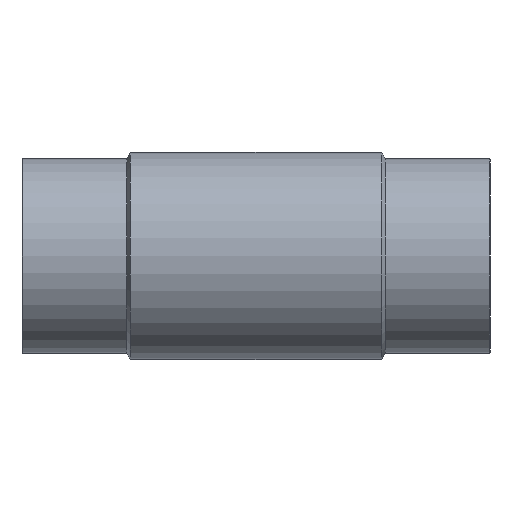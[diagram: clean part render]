
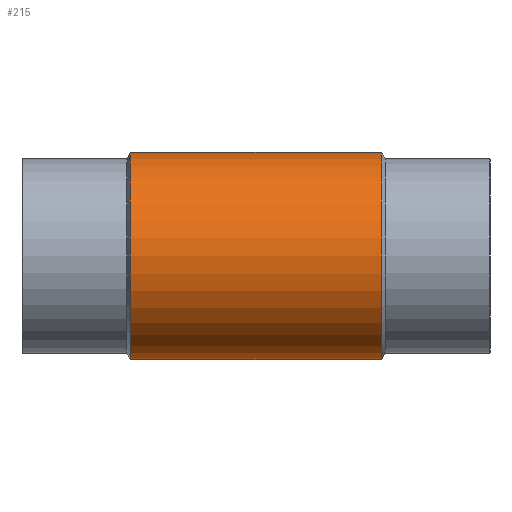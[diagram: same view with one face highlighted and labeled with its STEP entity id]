
A CAD part, front view. The second image highlights one B-rep face of the part: STEP entity #215.
In plain terms, the highlighted cylindrical face has radius 119.5 mm (diameter 239 mm), a full revolution.
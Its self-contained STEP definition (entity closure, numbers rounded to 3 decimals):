
#33=CIRCLE('',#250,119.5);
#35=CIRCLE('',#255,119.5);
#52=ORIENTED_EDGE('',*,*,#94,.T.);
#53=ORIENTED_EDGE('',*,*,#95,.T.);
#54=ORIENTED_EDGE('',*,*,#96,.F.);
#55=ORIENTED_EDGE('',*,*,#92,.T.);
#92=EDGE_CURVE('',#113,#113,#33,.T.);
#94=EDGE_CURVE('',#115,#116,#130,.T.);
#95=EDGE_CURVE('',#116,#115,#131,.F.);
#96=EDGE_CURVE('',#117,#117,#35,.T.);
#113=VERTEX_POINT('',#369);
#115=VERTEX_POINT('',#374);
#116=VERTEX_POINT('',#375);
#117=VERTEX_POINT('',#378);
#130=ELLIPSE('',#253,174.747,119.5);
#131=ELLIPSE('',#254,174.747,119.5);
#139=EDGE_LOOP('',(#52,#53));
#140=EDGE_LOOP('',(#54));
#141=EDGE_LOOP('',(#55));
#175=FACE_BOUND('',#139,.T.);
#176=FACE_BOUND('',#140,.T.);
#177=FACE_BOUND('',#141,.T.);
#207=CYLINDRICAL_SURFACE('',#252,119.5);
#215=ADVANCED_FACE('',(#175,#176,#177),#207,.T.);
#250=AXIS2_PLACEMENT_3D('',#368,#295,#296);
#252=AXIS2_PLACEMENT_3D('',#372,#299,#300);
#253=AXIS2_PLACEMENT_3D('',#373,#301,#302);
#254=AXIS2_PLACEMENT_3D('',#376,#303,#304);
#255=AXIS2_PLACEMENT_3D('',#377,#305,#306);
#295=DIRECTION('',(-1.,0.,0.));
#296=DIRECTION('',(0.,0.,1.));
#299=DIRECTION('',(-1.,0.,0.));
#300=DIRECTION('',(0.,0.,1.));
#301=DIRECTION('',(0.684,-0.73,0.));
#302=DIRECTION('',(-0.73,-0.684,0.));
#303=DIRECTION('',(0.684,0.73,0.));
#304=DIRECTION('',(-0.73,0.684,0.));
#305=DIRECTION('',(-1.,0.,0.));
#306=DIRECTION('',(0.,0.,1.));
#368=CARTESIAN_POINT('',(145.,0.,0.));
#369=CARTESIAN_POINT('',(145.,0.,119.5));
#372=CARTESIAN_POINT('',(-60.,0.,0.));
#373=CARTESIAN_POINT('',(0.,0.,0.));
#374=CARTESIAN_POINT('',(0.,0.,-119.5));
#375=CARTESIAN_POINT('',(0.,0.,119.5));
#376=CARTESIAN_POINT('',(0.,0.,0.));
#377=CARTESIAN_POINT('',(-145.,0.,0.));
#378=CARTESIAN_POINT('',(-145.,0.,119.5));
